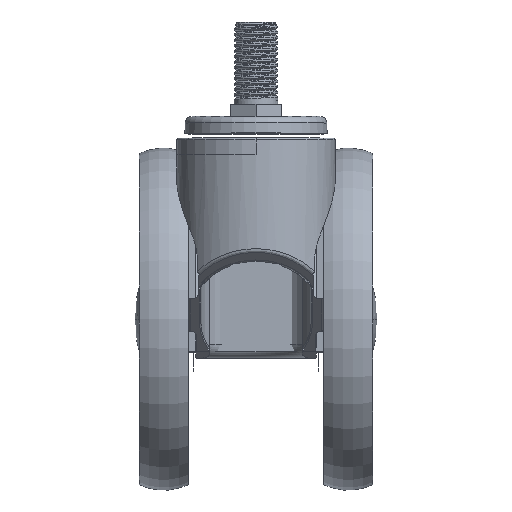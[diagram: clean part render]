
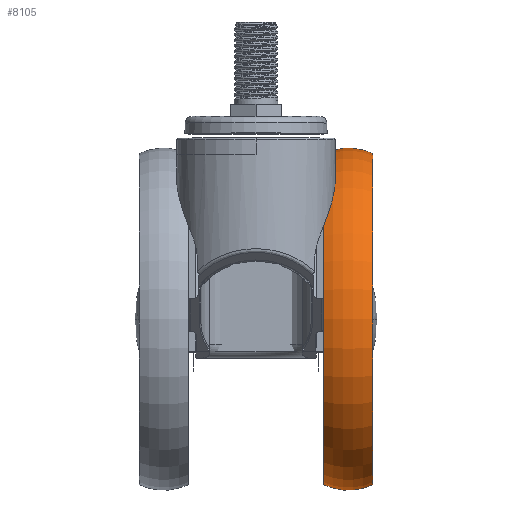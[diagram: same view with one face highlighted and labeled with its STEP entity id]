
A CAD part, top view. The second image highlights one B-rep face of the part: STEP entity #8105.
In plain terms, the highlighted toroidal (fillet/blend) face has major radius 41.25 mm and minor radius 21.25 mm.
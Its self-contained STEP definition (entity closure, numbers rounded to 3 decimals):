
#7986=CARTESIAN_POINT('',(24.75,0.,0.));
#7987=DIRECTION('',(-1.,0.,0.));
#7988=DIRECTION('',(0.,-1.,0.));
#7989=AXIS2_PLACEMENT_3D('',#7986,#7987,#7988);
#7991=CARTESIAN_POINT('',(33.75,-41.25,0.));
#7992=DIRECTION('',(0.,0.,1.));
#7993=DIRECTION('',(-0.424,-0.906,0.));
#7994=AXIS2_PLACEMENT_3D('',#7991,#7992,#7993);
#7996=CARTESIAN_POINT('',(33.75,41.25,0.));
#7997=DIRECTION('',(0.,0.,-1.));
#7998=DIRECTION('',(-0.424,0.906,0.));
#7999=AXIS2_PLACEMENT_3D('',#7996,#7997,#7998);
#8011=CARTESIAN_POINT('',(42.75,0.,0.));
#8012=DIRECTION('',(-1.,0.,0.));
#8013=DIRECTION('',(0.,-1.,0.));
#8014=AXIS2_PLACEMENT_3D('',#8011,#8012,#8013);
#8046=CARTESIAN_POINT('',(24.75,-60.5,0.));
#8047=CARTESIAN_POINT('',(42.75,-60.5,0.));
#8048=VERTEX_POINT('',#8046);
#8049=VERTEX_POINT('',#8047);
#8050=CARTESIAN_POINT('',(24.75,60.5,0.));
#8051=CARTESIAN_POINT('',(42.75,60.5,0.));
#8052=VERTEX_POINT('',#8050);
#8053=VERTEX_POINT('',#8051);
#8091=CARTESIAN_POINT('',(33.75,0.,0.));
#8092=DIRECTION('',(-1.,0.,0.));
#8093=DIRECTION('',(0.,1.,0.));
#8094=AXIS2_PLACEMENT_3D('',#8091,#8092,#8093);
#8095=TOROIDAL_SURFACE('',#8094,41.25,21.25);
#8097=ORIENTED_EDGE('',*,*,#8096,.F.);
#8098=ORIENTED_EDGE('',*,*,#8071,.T.);
#8100=ORIENTED_EDGE('',*,*,#8099,.T.);
#8102=ORIENTED_EDGE('',*,*,#8101,.F.);
#8103=EDGE_LOOP('',(#8097,#8098,#8100,#8102));
#8104=FACE_OUTER_BOUND('',#8103,.F.);
#7990=CIRCLE('',#7989,60.5);
#7995=CIRCLE('',#7994,21.25);
#8000=CIRCLE('',#7999,21.25);
#8015=CIRCLE('',#8014,60.5);
#8071=EDGE_CURVE('',#8048,#8052,#7990,.T.);
#8096=EDGE_CURVE('',#8048,#8049,#7995,.T.);
#8099=EDGE_CURVE('',#8052,#8053,#8000,.T.);
#8101=EDGE_CURVE('',#8049,#8053,#8015,.T.);
#8105=ADVANCED_FACE('',(#8104),#8095,.T.);
